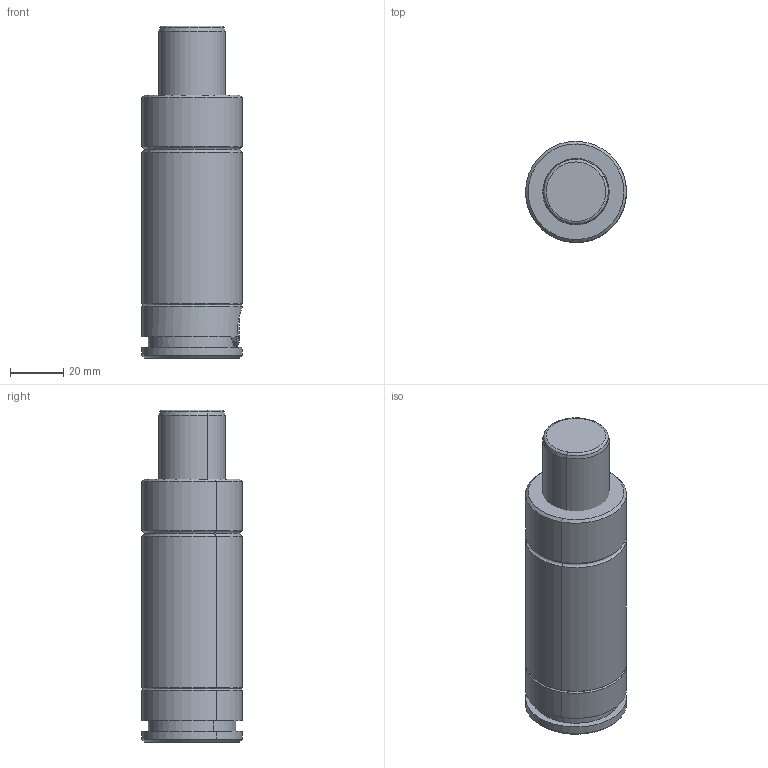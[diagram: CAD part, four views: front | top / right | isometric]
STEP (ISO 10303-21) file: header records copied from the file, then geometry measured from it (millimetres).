
FILE_DESCRIPTION(('CATIA V5 STEP Exchange'),'2;1');
FILE_NAME('W:\CATALOGO GENERAL 2018\FICHEROS CAD\003-TPH\TPH 1000C\TPH1000x25C.stp','2017-10-30T11:24:02+00:00',('none'),('none'),'CATIA Version 5 Release 17 (IN-10)','CATIA V5 STEP AP203','none');
FILE_SCHEMA(('CONFIG_CONTROL_DESIGN'));
Length unit declared in the file: millimetre
Products named in the file (1): TPH 1000x25C
Assembly tree (4 placements, depth 2):
  TPH 1000x25C
    #56
    #631
    #1424
    #2337
Bounding box: 37.99 x 37.99 x 125 mm (x, y, z)
Volume: 144603.1 mm3; surface area: 25886.8 mm2
Topology: 4 solids, 4 shells, 155 faces, 318 edges, 184 vertices
Faces by surface type: cone 44, cylinder 41, torus 40, plane 30
Entity records: 4076 total; most frequent: CARTESIAN_POINT 942, ORIENTED_EDGE 636, DIRECTION 540, EDGE_CURVE 318, AXIS2_PLACEMENT_3D 316, CIRCLE 192, VERTEX_POINT 184, EDGE_LOOP 168
